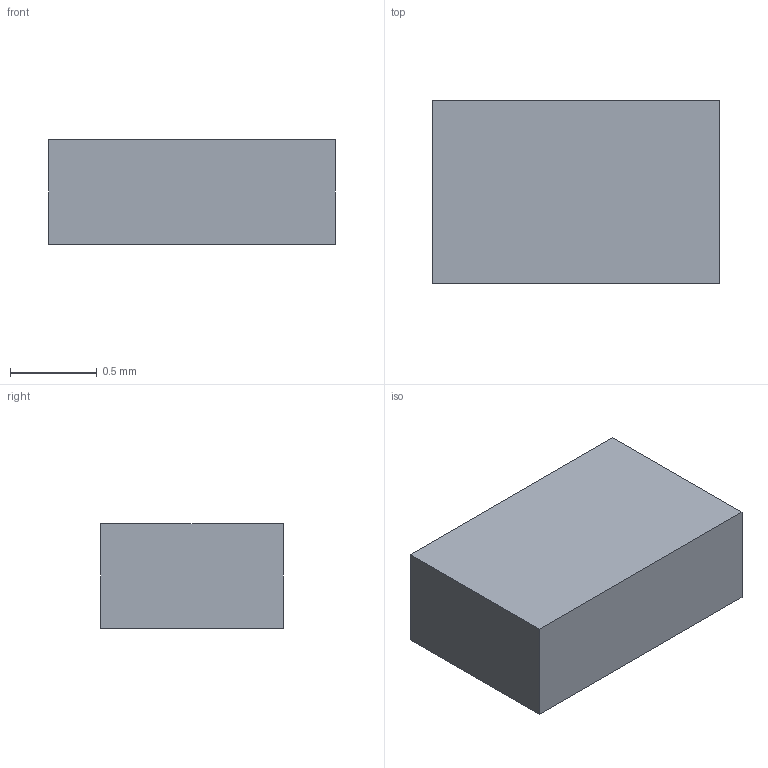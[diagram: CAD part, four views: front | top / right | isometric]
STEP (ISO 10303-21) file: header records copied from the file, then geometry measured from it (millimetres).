
FILE_DESCRIPTION(('Open CASCADE Model'),'2;1');
FILE_NAME('Open CASCADE Shape Model','2026-10-07T16:53:52',('Author'),( 'Open CASCADE'),'Open CASCADE STEP processor 7.8','Open CASCADE 7.8' ,'Unknown');
FILE_SCHEMA(('AUTOMOTIVE_DESIGN { 1 0 10303 214 1 1 1 1 }'));
Length unit declared in the file: millimetre
Products named in the file (1): Open CASCADE STEP translator 7.8 4
Bounding box: 1.65 x 1.05 x 0.6 mm (x, y, z)
Volume: 1 mm3; surface area: 6.7 mm2
Topology: 1 solids, 1 shells, 6 faces, 12 edges, 8 vertices
Faces by surface type: plane 6
Entity records: 322 total; most frequent: CARTESIAN_POINT 51, DIRECTION 50, LINE 36, VECTOR 36, ORIENTED_EDGE 24, PCURVE 24, DEFINITIONAL_REPRESENTATION 24, EDGE_CURVE 12
